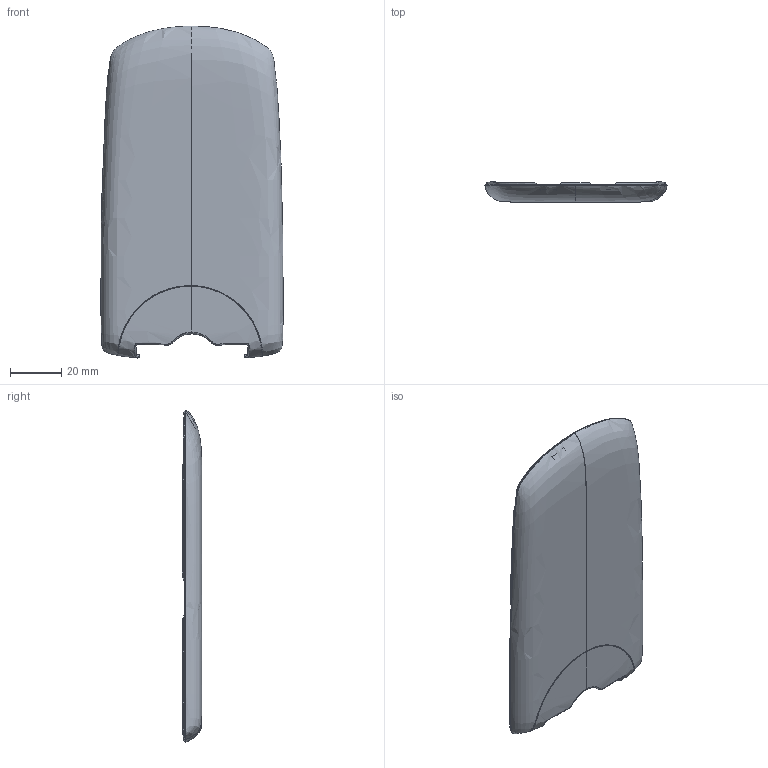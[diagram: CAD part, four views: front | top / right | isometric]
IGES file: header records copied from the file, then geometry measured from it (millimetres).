
Start section:  PTC IGES file: jc_cover_cf_final_prt.igs
Global section: file name: jc_cover_cf_final_prt.igs; native system: Pro/ENGINEER by Parametric Technology Corporation; preprocessor: 2000030; author: ECaille; organization: Unknown; date: 000803.092000; units: millimetre
Bounding box: 71.49 x 7.78 x 130.1 mm (x, y, z)
Surface area: 21378.9 mm2 (no closed solid volume)
Topology: 0 solids, 0 shells, 383 faces, 3491 edges, 4920 vertices
Faces by surface type: bspline 287, revolution 66, extrusion 30
